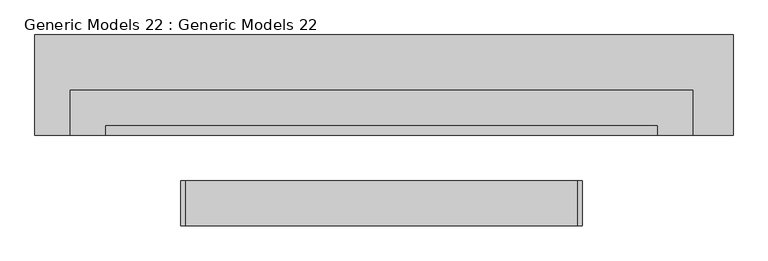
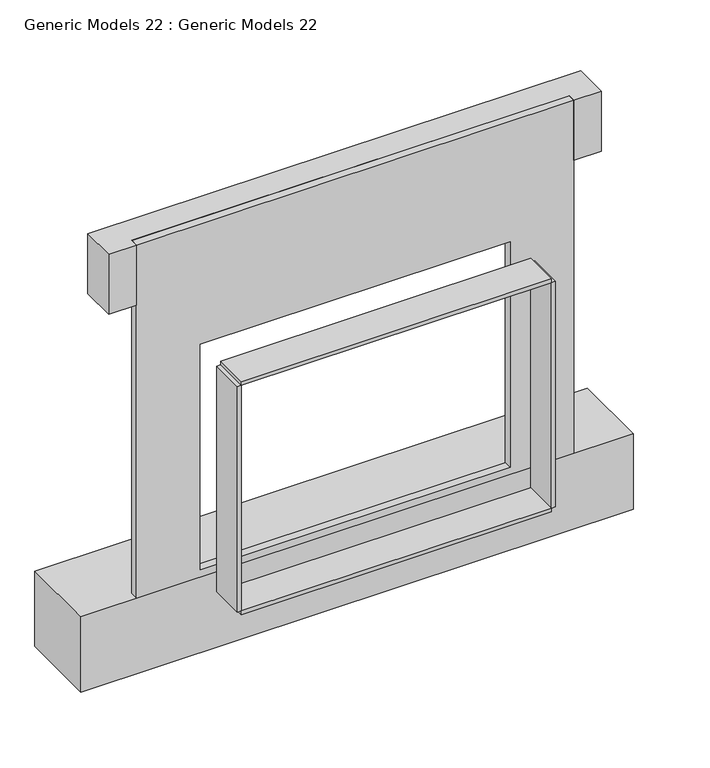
"""IFC4 building model written with IfcOpenShell, lengths in millimetres: proxy geometry, Generic Models 22 : Generic Models 22."""

import ifcopenshell
import ifcopenshell.guid

model = None  # the IFC model being written
_history = None  # IfcOwnerHistory: only IFC2X3 demands one
_inside = {}  # id of a spatial element -> (the spatial element, [elements in it])
_under = {}  # id of a project, library or spatial element -> (it, [spatial elements below it])
_declared = {}  # id of a project -> (the project, [libraries it declares])
_typed = {}  # id of a type object -> (the type object, [elements of that type])
_made_of = {}  # id of a material, layer set ... -> (it, [elements and type objects made of it])


def new_model(schema):
    """Start an empty IFC model of exactly this schema.

    Asked for "IFC4X3", IfcOpenShell would pick the latest addendum, in which some entities
    have other attributes; the version numbers below select the first issue.
    IFC2X3 requires an IfcOwnerHistory on every rooted entity: one is made here for all.
    """
    global model, _history
    if schema == "IFC4X3":
        model = ifcopenshell.file(schema_version=(4, 3, 0, 0))
    else:
        model = ifcopenshell.file(schema=schema)
    _inside.clear()
    _under.clear()
    _declared.clear()
    _typed.clear()
    _made_of.clear()
    _history = None
    if model.schema == "IFC2X3":
        org = make("IfcOrganization", Name="unknown")
        user = make(
            "IfcPersonAndOrganization",
            ThePerson=make("IfcPerson", FamilyName="unknown"),
            TheOrganization=org,
        )
        app = make(
            "IfcApplication",
            ApplicationDeveloper=org,
            Version="unknown",
            ApplicationFullName="unknown",
            ApplicationIdentifier="unknown",
        )
        _history = make(
            "IfcOwnerHistory",
            OwningUser=user,
            OwningApplication=app,
            ChangeAction="ADDED",
            CreationDate=0,
        )
    return model


def make(cls, **values):
    """One entity of the class cls with the attributes given. An attribute that is None is left unset."""
    return model.create_entity(
        cls, **{name: value for name, value in values.items() if value is not None}
    )


def rooted(cls, **values):
    """An entity with a GlobalId (a new one), such as an element, a storey or a relation."""
    return make(cls, GlobalId=ifcopenshell.guid.new(), OwnerHistory=_history, **values)


def si_unit(unit_type, name, prefix=None):
    """IfcSIUnit, for example si_unit("LENGTHUNIT", "METRE", prefix="MILLI")."""
    return make("IfcSIUnit", UnitType=unit_type, Prefix=prefix, Name=name)


def assignment(units):
    """IfcUnitAssignment: the units of a project."""
    return None if units is None else make("IfcUnitAssignment", Units=units)


def point(xyz):
    """IfcCartesianPoint."""
    return None if xyz is None else make("IfcCartesianPoint", Coordinates=xyz)


def direction(xyz):
    """IfcDirection."""
    return None if xyz is None else make("IfcDirection", DirectionRatios=xyz)


def frame(location, z_axis=None, x_axis=None):
    """IfcAxis2Placement3D, a coordinate frame: its origin and axes. An axis left out is left unset."""
    return make(
        "IfcAxis2Placement3D",
        Location=point(location),
        Axis=direction(z_axis),
        RefDirection=direction(x_axis),
    )


def origin():
    """The frame at (0, 0, 0) with its axes left unset."""
    return frame((0.0, 0.0, 0.0))


def place(relative_to, where):
    """IfcLocalPlacement: puts the frame where relative to a parent placement (None: the world)."""
    return make(
        "IfcLocalPlacement", PlacementRelTo=relative_to, RelativePlacement=where
    )


def context(
    kind, dimensions, precision=None, world=None, true_north=None, identifier=None
):
    """IfcGeometricRepresentationContext, for example the 3D "Model" context."""
    return make(
        "IfcGeometricRepresentationContext",
        ContextIdentifier=identifier,
        ContextType=kind,
        CoordinateSpaceDimension=dimensions,
        Precision=precision,
        WorldCoordinateSystem=world,
        TrueNorth=true_north,
    )


def project(units=None, contexts=None):
    """IfcProject with its units and contexts."""
    return rooted(
        "IfcProject",
        Name="project",
        RepresentationContexts=contexts,
        UnitsInContext=assignment(units),
    )


def spatial(cls, under=None, at=None, **own):
    """A site, building, storey or space (cls), placed at a placement, below another one or the project."""
    s = rooted(cls, ObjectPlacement=at, **own)
    if under is not None:
        _under.setdefault(under.id(), (under, []))[1].append(s)
    return s


def polyline(points):
    """IfcPolyline through the points."""
    return make("IfcPolyline", Points=[point(p) for p in points])


def outline(outer, holes=None, kind="AREA"):
    """IfcArbitraryClosedProfileDef: a profile drawn as a closed curve; with holes, ...WithVoids."""
    if holes is None:
        return make("IfcArbitraryClosedProfileDef", ProfileType=kind, OuterCurve=outer)
    return make(
        "IfcArbitraryProfileDefWithVoids",
        ProfileType=kind,
        OuterCurve=outer,
        InnerCurves=holes,
    )


def extrude(swept, where, along, depth):
    """IfcExtrudedAreaSolid: the profile swept, set in the frame where, extruded along a direction by depth."""
    return make(
        "IfcExtrudedAreaSolid",
        SweptArea=swept,
        Position=where,
        ExtrudedDirection=direction(along),
        Depth=depth,
    )


def shape(context_of_items, identifier, shape_type, items):
    """IfcShapeRepresentation: the items that make up one representation, for example the "Body"."""
    return make(
        "IfcShapeRepresentation",
        ContextOfItems=context_of_items,
        RepresentationIdentifier=identifier,
        RepresentationType=shape_type,
        Items=items,
    )


def source(mapping_origin, context_of_items, identifier, shape_type, items):
    """IfcRepresentationMap: a shape defined once, which mapped items show again and again."""
    return make(
        "IfcRepresentationMap",
        MappingOrigin=mapping_origin,
        MappedRepresentation=shape(context_of_items, identifier, shape_type, items),
    )


def transform(
    local_origin,
    x_axis=None,
    y_axis=None,
    z_axis=None,
    scale=None,
    scale2=None,
    scale3=None,
    uniform=True,
):
    """IfcCartesianTransformationOperator3D, or its non-uniform kind. x_axis, y_axis, z_axis: its Axis1, 2, 3."""
    if uniform:
        return make(
            "IfcCartesianTransformationOperator3D",
            Axis1=direction(x_axis),
            Axis2=direction(y_axis),
            LocalOrigin=point(local_origin),
            Scale=scale,
            Axis3=direction(z_axis),
        )
    return make(
        "IfcCartesianTransformationOperator3DnonUniform",
        Axis1=direction(x_axis),
        Axis2=direction(y_axis),
        LocalOrigin=point(local_origin),
        Scale=scale,
        Axis3=direction(z_axis),
        Scale2=scale2,
        Scale3=scale3,
    )


def mapped(mapping_source, mapping_target):
    """IfcMappedItem: shows the shape of a source again, moved by a transform."""
    return make(
        "IfcMappedItem", MappingSource=mapping_source, MappingTarget=mapping_target
    )


def made_of(thing, what):
    """Note that an element or type object is made of a material, layer set ...; save() writes the relation."""
    if what is not None:
        _made_of.setdefault(what.id(), (what, []))[1].append(thing)
    return thing


def element(
    cls,
    number,
    at=None,
    inside=None,
    cuts=None,
    type_object=None,
    material=None,
    context=None,
    identifier="Body",
    shape_type=None,
    held_by="IfcProductDefinitionShape",
    body=None,
    shapes=None,
    **own,
):
    """One element of the class cls, such as IfcWall. Its Tag is "e" and its number.

    at: its placement. inside: the storey or other place that contains it. cuts: it is an
    opening in that element (IfcRelVoidsElement). A single representation is given by context,
    identifier, shape_type and body (its items); several are given by shapes. held_by: the class
    of the entity that holds the representations. save() writes the other relations.
    """
    e = rooted(cls, Tag="e%d" % number, ObjectPlacement=at, **own)
    if body is not None:
        shapes = [shape(context, identifier, shape_type, body)]
    if shapes is not None:
        e.Representation = make(held_by, Representations=shapes)
    if inside is not None:
        _inside.setdefault(inside.id(), (inside, []))[1].append(e)
    if cuts is not None:
        rooted(
            "IfcRelVoidsElement", RelatingBuildingElement=cuts, RelatedOpeningElement=e
        )
    if type_object is not None:
        _typed.setdefault(type_object.id(), (type_object, []))[1].append(e)
    return made_of(e, material)


def aggregate(whole, parts):
    """IfcRelAggregates: a whole, such as a stair, and the parts it consists of."""
    return rooted("IfcRelAggregates", RelatingObject=whole, RelatedObjects=parts)


def save(model, path):
    """Write the relations noted so far, then the file.

    IfcRelAggregates (storeys below a building ...), IfcRelContainedInSpatialStructure (elements
    in a storey), IfcRelDefinesByType, IfcRelAssociatesMaterial and IfcRelDeclares: one each for
    every whole, place, type object, material and project.
    """
    for whole, parts in _under.values():
        aggregate(whole, parts)
    for where, things in _inside.values():
        rooted(
            "IfcRelContainedInSpatialStructure",
            RelatedElements=things,
            RelatingStructure=where,
        )
    for kind, things in _typed.values():
        rooted("IfcRelDefinesByType", RelatedObjects=things, RelatingType=kind)
    for what, things in _made_of.values():
        rooted("IfcRelAssociatesMaterial", RelatedObjects=things, RelatingMaterial=what)
    for by, libraries in _declared.values():
        rooted("IfcRelDeclares", RelatingContext=by, RelatedDefinitions=libraries)
    model.write(path)


def generic_models_22_generic_models_22_3790d6d9(model_context):
    return source(origin(), model_context, "Body", "SweptSolid", [
        extrude(outline(polyline([(-3619.5, 3670.3), (-1854.2, 3670.3), (-1854.2, 3416.3), (-3619.5, 3416.3), (-3619.5, 3670.3)])), frame((0.0, 0.0, 3251.2), z_axis=(0.0, 0.0, 1.0), x_axis=(1.0, 0.0, 0.0)), (0.0, 0.0, 1.0), 254.0),
        extrude(outline(polyline([(-3238.5, 3187.7), (-3238.5, 3302.0), (-2247.9, 3302.0), (-2247.9, 3187.7), (-3238.5, 3187.7)])), frame((0.0, 0.0, 4292.6), z_axis=(0.0, 0.0, 1.0), x_axis=(1.0, 0.0, 0.0)), (0.0, 0.0, 1.0), 12.7),
        extrude(outline(polyline([(-3238.5, 3187.7), (-3238.5, 3302.0), (-2247.9, 3302.0), (-2247.9, 3187.7), (-3238.5, 3187.7)])), frame((0.0, 0.0, 3517.9), z_axis=(0.0, 0.0, 1.0), x_axis=(1.0, 0.0, 0.0)), (0.0, 0.0, 1.0), 12.7),
        extrude(outline(polyline([(-2247.9, 3187.7), (-2247.9, 3302.0), (-2235.2, 3302.0), (-2235.2, 3187.7), (-2247.9, 3187.7)])), frame((0.0, 0.0, 3530.6), z_axis=(0.0, 0.0, 1.0), x_axis=(1.0, 0.0, 0.0)), (0.0, 0.0, 1.0), 762.0),
        extrude(outline(polyline([(-3238.5, 3302.0), (-3238.5, 3187.7), (-3251.2, 3187.7), (-3251.2, 3302.0), (-3238.5, 3302.0)])), frame((0.0, 0.0, 3530.6), z_axis=(0.0, 0.0, 1.0), x_axis=(1.0, 0.0, 0.0)), (0.0, 0.0, 1.0), 762.0),
        extrude(outline(polyline([(-1955.8, 3416.3), (-2044.7, 3416.3), (-2044.7, 3441.7), (-3441.7, 3441.7), (-3441.7, 3416.3), (-3530.6, 3416.3), (-3530.6, 3530.6), (-1955.8, 3530.6), (-1955.8, 3416.3)])), frame((0.0, 0.0, 4495.8), z_axis=(0.0, 0.0, 1.0), x_axis=(1.0, 0.0, 0.0)), (0.0, 0.0, 1.0), 203.2),
        extrude(outline(polyline([(3505.2, -2044.7), (4292.6, -2044.7), (4699.0, -2044.7), (4699.0, -3441.7), (3505.2, -3441.7), (3505.2, -2044.7)]), holes=[polyline([(4292.6, -2247.9), (3530.6, -2247.9), (3530.6, -3238.5), (4292.6, -3238.5), (4292.6, -2247.9)])]), frame((0.0, 3416.3, 0.0), z_axis=(0.0, 1.0, 0.0), x_axis=(0.0, 0.0, 1.0)), (0.0, 0.0, 1.0), 25.4),
    ])


if __name__ == "__main__":
    model = new_model("IFC4")
    model_context = context("Model", 3, world=origin())
    ifc_project = project(units=[si_unit("LENGTHUNIT", "METRE", prefix="MILLI")], contexts=[model_context])
    site = spatial("IfcSite", under=ifc_project)
    building = spatial("IfcBuilding", under=site)
    placement = place(None, origin())
    generic_models_22_generic_models_22_shape = generic_models_22_generic_models_22_3790d6d9(model_context)
    element("IfcBuildingElementProxy", 1, Name="Generic Models 22 : Generic Models 22", ObjectType="Generic Models 22 : Generic Models 22", at=placement, inside=building, context=model_context, shape_type="MappedRepresentation", body=[
        mapped(generic_models_22_generic_models_22_shape, transform((0.0, 0.0, 0.0), x_axis=(1.0, 0.0, 0.0), y_axis=(0.0, 1.0, 0.0), z_axis=(0.0, 0.0, 1.0))),
    ])
    save(model, "model.ifc")
